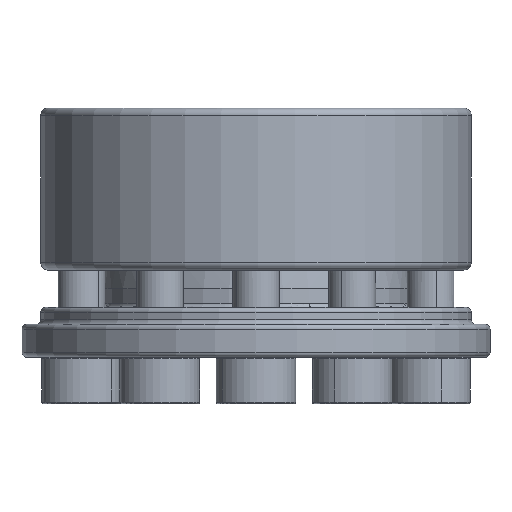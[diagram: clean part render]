
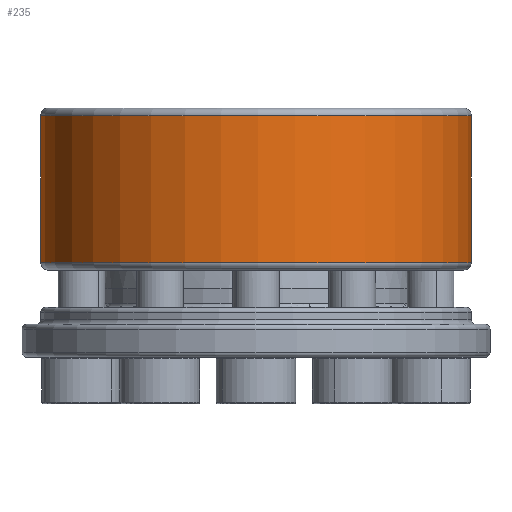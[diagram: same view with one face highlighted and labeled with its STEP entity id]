
A CAD part, front view. The second image highlights one B-rep face of the part: STEP entity #235.
In plain terms, the highlighted cylindrical face has radius 23 mm (diameter 46 mm), a partial arc.
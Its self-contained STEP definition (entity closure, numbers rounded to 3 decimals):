
#235 = ADVANCED_FACE ( 'NONE', ( #6336 ), #6334, .T. ) ;
#392 = ORIENTED_EDGE ( 'NONE', *, *, #1099, .T. ) ;
#410 = ORIENTED_EDGE ( 'NONE', *, *, #1098, .T. ) ;
#412 = ORIENTED_EDGE ( 'NONE', *, *, #1100, .F. ) ;
#1098 = EDGE_CURVE ( 'NONE', #1638, #1637, #8090, .T. ) ;
#1099 = EDGE_CURVE ( 'NONE', #1637, #1646, #8095, .T. ) ;
#1100 = EDGE_CURVE ( 'NONE', #1645, #1646, #8098, .T. ) ;
#1101 = EDGE_CURVE ( 'NONE', #1645, #1638, #8097, .T. ) ;
#1637 = VERTEX_POINT ( 'NONE', #9961 ) ;
#1638 = VERTEX_POINT ( 'NONE', #9962 ) ;
#1645 = VERTEX_POINT ( 'NONE', #9969 ) ;
#1646 = VERTEX_POINT ( 'NONE', #9970 ) ;
#3332 = EDGE_LOOP ( 'NONE', ( #410, #392, #412, #7777 ) ) ;
#5435 = AXIS2_PLACEMENT_3D ( 'NONE', #5899, #5897, #5895 ) ;
#5895 = DIRECTION ( 'NONE',  ( 1., 0., 0. ) ) ;
#5897 = DIRECTION ( 'NONE',  ( 0., 0., 1. ) ) ;
#5899 = CARTESIAN_POINT ( 'NONE',  ( 0., 0., 1.5 ) ) ;
#6334 = CYLINDRICAL_SURFACE ( 'NONE', #5435, 23. ) ;
#6336 = FACE_OUTER_BOUND ( 'NONE', #3332, .T. ) ;
#7777 = ORIENTED_EDGE ( 'NONE', *, *, #1101, .T. ) ;
#8090 = CIRCLE ( 'NONE', #10088, 23. ) ;
#8095 = LINE ( 'NONE', #9552, #8099 ) ;
#8097 = LINE ( 'NONE', #9556, #8102 ) ;
#8098 = CIRCLE ( 'NONE', #10089, 23. ) ;
#8099 = VECTOR ( 'NONE', #9550, 1000. ) ;
#8102 = VECTOR ( 'NONE', #9551, 1000. ) ;
#9550 = DIRECTION ( 'NONE',  ( 0., 0., 1. ) ) ;
#9551 = DIRECTION ( 'NONE',  ( 0., 0., -1. ) ) ;
#9552 = CARTESIAN_POINT ( 'NONE',  ( 23., 0., 1.5 ) ) ;
#9553 = CARTESIAN_POINT ( 'NONE',  ( 0., 0., -16.5 ) ) ;
#9554 = DIRECTION ( 'NONE',  ( 0., 0., 1. ) ) ;
#9555 = DIRECTION ( 'NONE',  ( 1., 0., 0. ) ) ;
#9556 = CARTESIAN_POINT ( 'NONE',  ( -22.995, -0.5, 1.5 ) ) ;
#9557 = CARTESIAN_POINT ( 'NONE',  ( 0., 0., -0.8 ) ) ;
#9558 = DIRECTION ( 'NONE',  ( 0., 0., 1. ) ) ;
#9559 = DIRECTION ( 'NONE',  ( 1., 0., 0. ) ) ;
#9961 = CARTESIAN_POINT ( 'NONE',  ( 23., 0., -16.5 ) ) ;
#9962 = CARTESIAN_POINT ( 'NONE',  ( -22.995, -0.5, -16.5 ) ) ;
#9969 = CARTESIAN_POINT ( 'NONE',  ( -22.995, -0.5, -0.8 ) ) ;
#9970 = CARTESIAN_POINT ( 'NONE',  ( 23., 0., -0.8 ) ) ;
#10088 = AXIS2_PLACEMENT_3D ( 'NONE', #9553, #9554, #9555 ) ;
#10089 = AXIS2_PLACEMENT_3D ( 'NONE', #9557, #9558, #9559 ) ;
